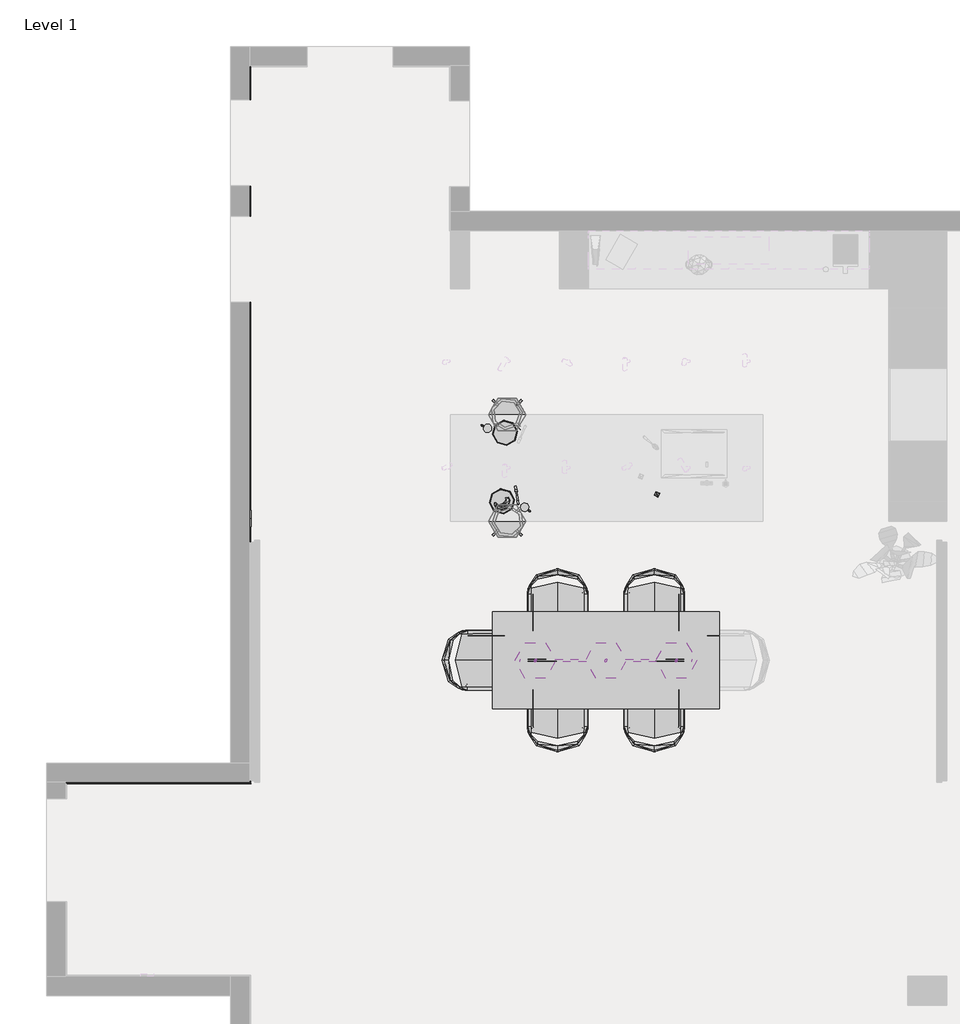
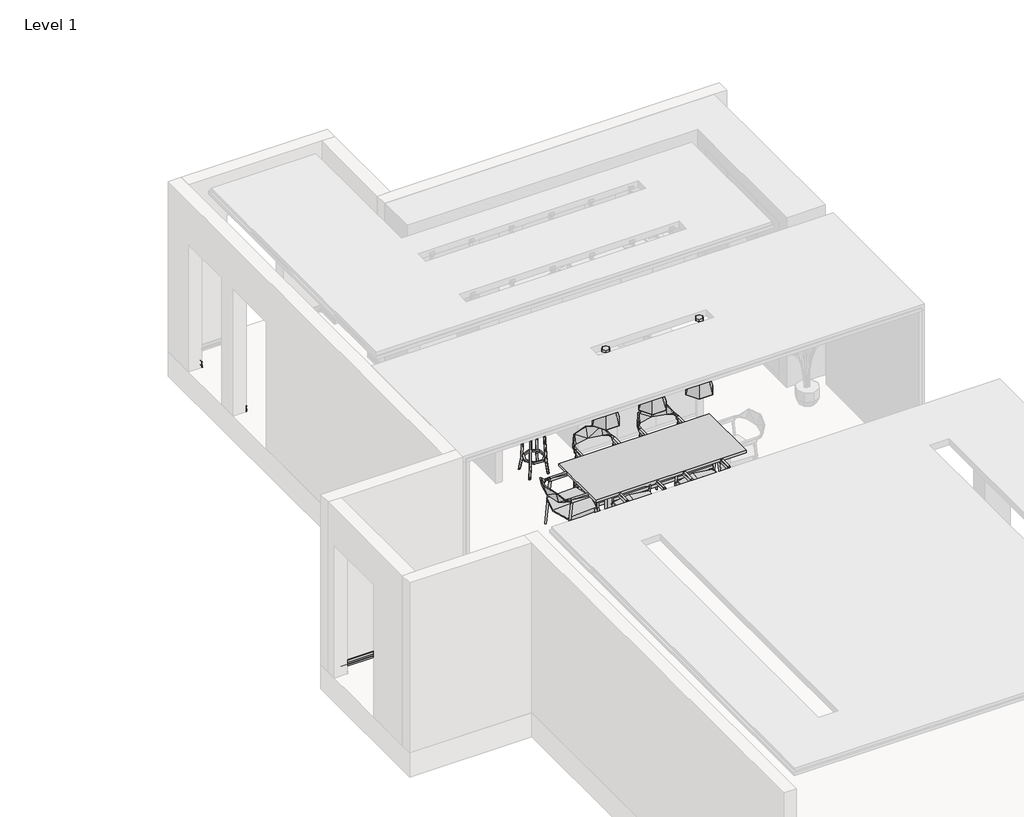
# One storey, part 3 of 4: 19 geographic elements, 2 proxies.
"""IFC4 building model written with IfcOpenShell, lengths in millimetres."""

from ifc_helpers import new_model, si_unit, frame, origin, place, context, project, spatial, polyline, circle_curve, ellipse_curve, transform, mapped, element, save
from ifc_brep_helpers import plane_surface, cylinder_surface, revolved_surface, advanced_brep
from components import geographic_element_5908e057, geographic_element_748f541f, geographic_element_531842fa, enscape_assetdefinition_chair_005_enscape_assetdefinition_31156a69, enscape_assetdefinition_chair_005_enscape_assetdefinition_cb8def9a, enscape_assetdefinition_cup_001_enscape_assetdefinition_cup_e3f5b286, enscape_assetdefinition_high_stool_013_enscape_60fb523d, enscape_assetdefinition_light_switch_001_enscape_6b1c9711, enscape_assetdefinition_pendant_lamp_007_enscape_1d66599b, enscape_assetdefinition_plate_006_enscape_assetdefinition_0bcb7aa0, enscape_assetdefinition_power_socket_001_enscape_5ca5412b, enscape_assetdefinition_table_014_enscape_assetdefinition_37f53f77

model = new_model("IFC4")

# Units and contexts
model_context = context("Model", 3, world=origin())
ifc_project = project(units=[si_unit("LENGTHUNIT", "METRE", prefix="MILLI")], contexts=[model_context])

# Site, building, storey
site = spatial("IfcSite", under=ifc_project)
building = spatial("IfcBuilding", under=site)
storey = spatial("IfcBuildingStorey", under=building, Name="Level 1", Elevation=0.0)

# Proxies
placement = place(None, origin())
element("IfcBuildingElementProxy", 1, Name="Brick Soldier Course 2", ObjectType="Brick Soldier Course 2", at=placement, inside=storey, context=model_context, shape_type="AdvancedBrep", body=[
    advanced_brep(
    [(3277.9525098, 9937.7866664, 100.0), (3277.9525098, 9937.7866664, 0.0), (3291.0803378, 9937.7866664, 0.0), (3285.5847618, 9937.7866664, 16.7363778), (3284.220014, 9937.7866664, 17.9313406), (3282.9525098, 9937.7866664, 17.9313406), (3282.9525098, 9937.7866664, 25.0), (3283.9895572, 9937.7866664, 25.0), (3285.4407832, 9937.7866664, 26.451226), (3285.4407832, 9937.7866664, 48.5), (3283.9407832, 9937.7866664, 50.0), (3280.4407832, 9937.7866664, 50.0), (3280.4407832, 9937.7866664, 90.0), (3281.5159518, 9937.7866664, 90.0), (3282.9525098, 9937.7866664, 91.4365579), (3282.9525098, 9937.7866664, 95.9967275), (3278.9492372, 9937.7866664, 100.0), (3277.9525098, 10287.7866664, 100.0), (3278.9492372, 10286.7899389, 100.0), (3282.9525098, 10282.7866664, 95.9967275), (3282.9525098, 10282.7866664, 91.4365579), (3281.5159518, 10284.2232244, 90.0), (3280.4407832, 10285.298393, 90.0), (3280.4407832, 10285.298393, 50.0), (3283.9407832, 10281.798393, 50.0), (3285.4407832, 10280.298393, 48.5), (3285.4407832, 10280.298393, 26.451226), (3283.9895572, 10281.749619, 25.0), (3282.9525098, 10282.7866664, 25.0), (3282.9525098, 10282.7866664, 17.9313406), (3284.220014, 10281.5191621, 17.9313406), (3285.5847618, 10280.1544144, 16.7363778), (3291.0803378, 10274.6588383, 0.0), (3277.9525098, 10287.7866664, 0.0)],
    [
        (0, 1),
        (1, 2),
        (2, 3, circle_curve(frame((3333.0974268, 9937.7866664, 23.0672348), z_axis=(0.0, 1.0, 0.0), x_axis=(1.0, 0.0, 0.0)), 47.932589)),
        (3, 4, circle_curve(frame((3284.220014, 9937.7866664, 16.554531), z_axis=(0.0, -1.0, 0.0), x_axis=(1.0, 0.0, 0.0)), 1.3768096)),
        (4, 5),
        (5, 6),
        (6, 7),
        (7, 8, circle_curve(frame((3283.9895572, 9937.7866664, 26.451226), z_axis=(0.0, -1.0, 0.0), x_axis=(1.0, 0.0, 0.0)), 1.451226)),
        (8, 9),
        (9, 10, circle_curve(frame((3283.9407832, 9937.7866664, 48.5), z_axis=(0.0, -1.0, 0.0), x_axis=(1.0, 0.0, 0.0)), 1.5)),
        (10, 11),
        (11, 12),
        (12, 13),
        (13, 14, circle_curve(frame((3281.5159518, 9937.7866664, 91.4365579), z_axis=(0.0, -1.0, 0.0), x_axis=(1.0, 0.0, 0.0)), 1.4365579)),
        (14, 15),
        (15, 16, circle_curve(frame((3278.9492372, 9937.7866664, 95.9967275), z_axis=(0.0, -1.0, 0.0), x_axis=(1.0, 0.0, 0.0)), 4.0032725)),
        (16, 0),
        (17, 18),
        (18, 19, ellipse_curve(frame((3278.9492372, 10286.7899389, 95.9967275), z_axis=(0.7071067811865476, 0.7071067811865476, 0.0), x_axis=(0.7071067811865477, -0.7071067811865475, 0.0)), 5.6614823, 4.0032725)),
        (19, 20),
        (20, 21, ellipse_curve(frame((3281.5159518, 10284.2232244, 91.4365579), z_axis=(0.7071067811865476, 0.7071067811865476, 0.0), x_axis=(0.7071067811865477, -0.7071067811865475, 0.0)), 2.0315997, 1.4365579)),
        (21, 22),
        (22, 23),
        (23, 24),
        (24, 25, ellipse_curve(frame((3283.9407832, 10281.798393, 48.5), z_axis=(0.7071067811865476, 0.7071067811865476, 0.0), x_axis=(0.7071067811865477, -0.7071067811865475, 0.0)), 2.1213203, 1.5)),
        (25, 26),
        (26, 27, ellipse_curve(frame((3283.9895572, 10281.749619, 26.451226), z_axis=(0.7071067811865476, 0.7071067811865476, 0.0), x_axis=(0.7071067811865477, -0.7071067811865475, 0.0)), 2.0523435, 1.451226)),
        (27, 28),
        (28, 29),
        (29, 30),
        (30, 31, ellipse_curve(frame((3284.220014, 10281.5191621, 16.554531), z_axis=(0.7071067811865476, 0.7071067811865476, 0.0), x_axis=(0.7071067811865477, -0.7071067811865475, 0.0)), 1.9471028, 1.3768096)),
        (31, 32, ellipse_curve(frame((3333.0974268, 10232.6417494, 23.0672348), z_axis=(-0.7071067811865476, -0.7071067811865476, 0.0), x_axis=(-0.7071067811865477, 0.7071067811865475, 0.0)), 67.7869174, 47.932589)),
        (32, 33),
        (33, 17),
        (0, 17),
        (33, 1),
        (32, 2),
        (31, 3),
        (30, 4),
        (29, 5),
        (28, 6),
        (27, 7),
        (26, 8),
        (25, 9),
        (24, 10),
        (23, 11),
        (22, 12),
        (21, 13),
        (20, 14),
        (19, 15),
        (18, 16),
    ],
    [
        plane_surface(frame((3177.9475425, 9937.7866664, 0.0), z_axis=(0.0, -1.0, 0.0), x_axis=(0.0, 0.0, 1.0))),
        plane_surface(frame((3277.9525098, 10287.7866664, 304.8), z_axis=(0.7071067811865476, 0.7071067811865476, 0.0), x_axis=(0.7071067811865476, -0.7071067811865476, 0.0))),
        plane_surface(frame((3277.9525098, 9937.7866664, 100.0), z_axis=(-1.0, 0.0, 0.0), x_axis=(0.0, 1.0, 0.0))),
        plane_surface(frame((3277.9525098, 9937.7866664, 0.0), z_axis=(0.0, 0.0, -1.0), x_axis=(0.0, 1.0, 0.0))),
        revolved_surface(polyline([(3381.0300158, 10280.574338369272, 23.0672348), (3381.0300158, 9937.7866664, 23.0672348)]), (3333.0974268, 9937.7866664, 23.0672348), (0.0, 1.0, 0.0)),
        cylinder_surface(frame((3284.220014, 9937.7866664, 16.554531), z_axis=(0.0, -1.0, 0.0), x_axis=(1.0, 0.0, 0.0)), 1.3768096),
        plane_surface(frame((3284.220014, 9937.7866664, 17.9313406), z_axis=(0.0, 0.0, 1.0), x_axis=(0.0, 1.0, 0.0))),
        plane_surface(frame((3282.9525098, 9937.7866664, 17.9313406), z_axis=(1.0, 0.0, 0.0), x_axis=(0.0, 1.0, 0.0))),
        plane_surface(frame((3282.9525098, 9937.7866664, 25.0), z_axis=(0.0, 0.0, -1.0), x_axis=(0.0, 1.0, 0.0))),
        cylinder_surface(frame((3283.9895572, 9937.7866664, 26.451226), z_axis=(0.0, -1.0, 0.0), x_axis=(1.0, 0.0, 0.0)), 1.451226),
        plane_surface(frame((3285.4407832, 9937.7866664, 26.451226), z_axis=(1.0, 0.0, 0.0), x_axis=(0.0, 1.0, 0.0))),
        cylinder_surface(frame((3283.9407832, 9937.7866664, 48.5), z_axis=(0.0, -1.0, 0.0), x_axis=(1.0, 0.0, 0.0)), 1.5),
        plane_surface(frame((3283.9407832, 9937.7866664, 50.0), z_axis=(0.0, 0.0, 1.0), x_axis=(0.0, 1.0, 0.0))),
        plane_surface(frame((3280.4407832, 9937.7866664, 50.0), z_axis=(1.0, 0.0, 0.0), x_axis=(0.0, 1.0, 0.0))),
        plane_surface(frame((3280.4407832, 9937.7866664, 90.0), z_axis=(0.0, 0.0, -1.0), x_axis=(0.0, 1.0, 0.0))),
        cylinder_surface(frame((3281.5159518, 9937.7866664, 91.4365579), z_axis=(0.0, -1.0, 0.0), x_axis=(1.0, 0.0, 0.0)), 1.4365579),
        plane_surface(frame((3282.9525098, 9937.7866664, 91.4365579), z_axis=(1.0, 0.0, 0.0), x_axis=(0.0, 1.0, 0.0))),
        cylinder_surface(frame((3278.9492372, 9937.7866664, 95.9967275), z_axis=(0.0, -1.0, 0.0), x_axis=(1.0, 0.0, 0.0)), 4.0032725),
        plane_surface(frame((3278.9492372, 9937.7866664, 100.0), z_axis=(0.0, 0.0, 1.0), x_axis=(0.0, 1.0, 0.0))),
    ],
    [
        (0, [[1, 2, 3, 4, 5, 6, 7, 8, 9, 10, 11, 12, 13, 14, 15, 16, 17]]),
        (1, [[18, 19, 20, 21, 22, 23, 24, 25, 26, 27, 28, 29, 30, 31, 32, 33, 34]]),
        (2, [[-1, 35, -34, 36]]),
        (3, [[-2, -36, -33, 37]]),
        (4, [[-3, -37, -32, 38]]),
        (5, [[-4, -38, -31, 39]]),
        (6, [[-5, -39, -30, 40]]),
        (7, [[-6, -40, -29, 41]]),
        (8, [[-7, -41, -28, 42]]),
        (9, [[-8, -42, -27, 43]]),
        (10, [[-9, -43, -26, 44]]),
        (11, [[-10, -44, -25, 45]]),
        (12, [[-11, -45, -24, 46]]),
        (13, [[-12, -46, -23, 47]]),
        (14, [[-13, -47, -22, 48]]),
        (15, [[-14, -48, -21, 49]]),
        (16, [[-15, -49, -20, 50]]),
        (17, [[-16, -50, -19, 51]]),
        (18, [[-17, -51, -18, -35]]),
    ],
),
    advanced_brep(
    [(3277.9525098, 8737.7866664, 100.0), (3277.9525098, 8737.7866664, 0.0), (3291.0803378, 8737.7866664, 0.0), (3285.5847618, 8737.7866664, 16.7363778), (3284.220014, 8737.7866664, 17.9313406), (3282.9525098, 8737.7866664, 17.9313406), (3282.9525098, 8737.7866664, 25.0), (3283.9895572, 8737.7866664, 25.0), (3285.4407832, 8737.7866664, 26.451226), (3285.4407832, 8737.7866664, 48.5), (3283.9407832, 8737.7866664, 50.0), (3280.4407832, 8737.7866664, 50.0), (3280.4407832, 8737.7866664, 90.0), (3281.5159518, 8737.7866664, 90.0), (3282.9525098, 8737.7866664, 91.4365579), (3282.9525098, 8737.7866664, 95.9967275), (3278.9492372, 8737.7866664, 100.0), (3277.9525098, 9047.7866664, 100.0), (3278.9492372, 9047.7866664, 100.0), (3282.9525098, 9047.7866664, 95.9967275), (3282.9525098, 9047.7866664, 91.4365579), (3281.5159518, 9047.7866664, 90.0), (3280.4407832, 9047.7866664, 90.0), (3280.4407832, 9047.7866664, 50.0), (3283.9407832, 9047.7866664, 50.0), (3285.4407832, 9047.7866664, 48.5), (3285.4407832, 9047.7866664, 26.451226), (3283.9895572, 9047.7866664, 25.0), (3282.9525098, 9047.7866664, 25.0), (3282.9525098, 9047.7866664, 17.9313406), (3284.220014, 9047.7866664, 17.9313406), (3285.5847618, 9047.7866664, 16.7363778), (3291.0803378, 9047.7866664, 0.0), (3277.9525098, 9047.7866664, 0.0)],
    [
        (0, 1),
        (1, 2),
        (2, 3, circle_curve(frame((3333.0974268, 8737.7866664, 23.0672348), z_axis=(0.0, 1.0, 0.0), x_axis=(1.0, 0.0, 0.0)), 47.932589)),
        (3, 4, circle_curve(frame((3284.220014, 8737.7866664, 16.554531), z_axis=(0.0, -1.0, 0.0), x_axis=(1.0, 0.0, 0.0)), 1.3768096)),
        (4, 5),
        (5, 6),
        (6, 7),
        (7, 8, circle_curve(frame((3283.9895572, 8737.7866664, 26.451226), z_axis=(0.0, -1.0, 0.0), x_axis=(1.0, 0.0, 0.0)), 1.451226)),
        (8, 9),
        (9, 10, circle_curve(frame((3283.9407832, 8737.7866664, 48.5), z_axis=(0.0, -1.0, 0.0), x_axis=(1.0, 0.0, 0.0)), 1.5)),
        (10, 11),
        (11, 12),
        (12, 13),
        (13, 14, circle_curve(frame((3281.5159518, 8737.7866664, 91.4365579), z_axis=(0.0, -1.0, 0.0), x_axis=(1.0, 0.0, 0.0)), 1.4365579)),
        (14, 15),
        (15, 16, circle_curve(frame((3278.9492372, 8737.7866664, 95.9967275), z_axis=(0.0, -1.0, 0.0), x_axis=(1.0, 0.0, 0.0)), 4.0032725)),
        (16, 0),
        (17, 18),
        (18, 19, circle_curve(frame((3278.9492372, 9047.7866664, 95.9967275), z_axis=(0.0, 1.0, 0.0), x_axis=(1.0, 0.0, 0.0)), 4.0032725)),
        (19, 20),
        (20, 21, circle_curve(frame((3281.5159518, 9047.7866664, 91.4365579), z_axis=(0.0, 1.0, 0.0), x_axis=(1.0, 0.0, 0.0)), 1.4365579)),
        (21, 22),
        (22, 23),
        (23, 24),
        (24, 25, circle_curve(frame((3283.9407832, 9047.7866664, 48.5), z_axis=(0.0, 1.0, 0.0), x_axis=(1.0, 0.0, 0.0)), 1.5)),
        (25, 26),
        (26, 27, circle_curve(frame((3283.9895572, 9047.7866664, 26.451226), z_axis=(0.0, 1.0, 0.0), x_axis=(1.0, 0.0, 0.0)), 1.451226)),
        (27, 28),
        (28, 29),
        (29, 30),
        (30, 31, circle_curve(frame((3284.220014, 9047.7866664, 16.554531), z_axis=(0.0, 1.0, 0.0), x_axis=(1.0, 0.0, 0.0)), 1.3768096)),
        (31, 32, circle_curve(frame((3333.0974268, 9047.7866664, 23.0672348), z_axis=(0.0, -1.0, 0.0), x_axis=(1.0, 0.0, 0.0)), 47.932589)),
        (32, 33),
        (33, 17),
        (0, 17),
        (33, 1),
        (32, 2),
        (31, 3),
        (30, 4),
        (29, 5),
        (28, 6),
        (27, 7),
        (26, 8),
        (25, 9),
        (24, 10),
        (23, 11),
        (22, 12),
        (21, 13),
        (20, 14),
        (19, 15),
        (18, 16),
    ],
    [
        plane_surface(frame((3177.9475425, 8737.7866664, 0.0), z_axis=(0.0, -1.0, 0.0), x_axis=(0.0, 0.0, 1.0))),
        plane_surface(frame((3177.9475425, 9047.7866664, 0.0), z_axis=(0.0, 1.0, 0.0), x_axis=(0.0, 0.0, 1.0))),
        plane_surface(frame((3277.9525098, 8737.7866664, 100.0), z_axis=(-1.0, 0.0, 0.0), x_axis=(0.0, 1.0, 0.0))),
        plane_surface(frame((3277.9525098, 8737.7866664, 0.0), z_axis=(0.0, 0.0, -1.0), x_axis=(0.0, 1.0, 0.0))),
        revolved_surface(polyline([(3381.0300158, 9047.7866664, 23.0672348), (3381.0300158, 8737.7866664, 23.0672348)]), (3333.0974268, 8737.7866664, 23.0672348), (0.0, 1.0, 0.0)),
        cylinder_surface(frame((3284.220014, 8737.7866664, 16.554531), z_axis=(0.0, -1.0, 0.0), x_axis=(1.0, 0.0, 0.0)), 1.3768096),
        plane_surface(frame((3284.220014, 8737.7866664, 17.9313406), z_axis=(0.0, 0.0, 1.0), x_axis=(0.0, 1.0, 0.0))),
        plane_surface(frame((3282.9525098, 8737.7866664, 17.9313406), z_axis=(1.0, 0.0, 0.0), x_axis=(0.0, 1.0, 0.0))),
        plane_surface(frame((3282.9525098, 8737.7866664, 25.0), z_axis=(0.0, 0.0, -1.0), x_axis=(0.0, 1.0, 0.0))),
        cylinder_surface(frame((3283.9895572, 8737.7866664, 26.451226), z_axis=(0.0, -1.0, 0.0), x_axis=(1.0, 0.0, 0.0)), 1.451226),
        plane_surface(frame((3285.4407832, 8737.7866664, 26.451226), z_axis=(1.0, 0.0, 0.0), x_axis=(0.0, 1.0, 0.0))),
        cylinder_surface(frame((3283.9407832, 8737.7866664, 48.5), z_axis=(0.0, -1.0, 0.0), x_axis=(1.0, 0.0, 0.0)), 1.5),
        plane_surface(frame((3283.9407832, 8737.7866664, 50.0), z_axis=(0.0, 0.0, 1.0), x_axis=(0.0, 1.0, 0.0))),
        plane_surface(frame((3280.4407832, 8737.7866664, 50.0), z_axis=(1.0, 0.0, 0.0), x_axis=(0.0, 1.0, 0.0))),
        plane_surface(frame((3280.4407832, 8737.7866664, 90.0), z_axis=(0.0, 0.0, -1.0), x_axis=(0.0, 1.0, 0.0))),
        cylinder_surface(frame((3281.5159518, 8737.7866664, 91.4365579), z_axis=(0.0, -1.0, 0.0), x_axis=(1.0, 0.0, 0.0)), 1.4365579),
        plane_surface(frame((3282.9525098, 8737.7866664, 91.4365579), z_axis=(1.0, 0.0, 0.0), x_axis=(0.0, 1.0, 0.0))),
        cylinder_surface(frame((3278.9492372, 8737.7866664, 95.9967275), z_axis=(0.0, -1.0, 0.0), x_axis=(1.0, 0.0, 0.0)), 4.0032725),
        plane_surface(frame((3278.9492372, 8737.7866664, 100.0), z_axis=(0.0, 0.0, 1.0), x_axis=(0.0, 1.0, 0.0))),
    ],
    [
        (0, [[1, 2, 3, 4, 5, 6, 7, 8, 9, 10, 11, 12, 13, 14, 15, 16, 17]]),
        (1, [[18, 19, 20, 21, 22, 23, 24, 25, 26, 27, 28, 29, 30, 31, 32, 33, 34]]),
        (2, [[-1, 35, -34, 36]]),
        (3, [[-2, -36, -33, 37]]),
        (4, [[-3, -37, -32, 38]]),
        (5, [[-4, -38, -31, 39]]),
        (6, [[-5, -39, -30, 40]]),
        (7, [[-6, -40, -29, 41]]),
        (8, [[-7, -41, -28, 42]]),
        (9, [[-8, -42, -27, 43]]),
        (10, [[-9, -43, -26, 44]]),
        (11, [[-10, -44, -25, 45]]),
        (12, [[-11, -45, -24, 46]]),
        (13, [[-12, -46, -23, 47]]),
        (14, [[-13, -47, -22, 48]]),
        (15, [[-14, -48, -21, 49]]),
        (16, [[-15, -49, -20, 50]]),
        (17, [[-16, -50, -19, 51]]),
        (18, [[-17, -51, -18, -35]]),
    ],
),
    advanced_brep(
    [(3277.9525098, 2887.7866664, 100.0), (3277.9525098, 2887.7866664, 0.0), (3291.0803378, 2874.6588383, 0.0), (3285.5847618, 2880.1544144, 16.7363778), (3284.220014, 2881.5191621, 17.9313406), (3282.9525098, 2882.7866664, 17.9313406), (3282.9525098, 2882.7866664, 25.0), (3283.9895572, 2881.749619, 25.0), (3285.4407832, 2880.298393, 26.451226), (3285.4407832, 2880.298393, 48.5), (3283.9407832, 2881.798393, 50.0), (3280.4407832, 2885.298393, 50.0), (3280.4407832, 2885.298393, 90.0), (3281.5159518, 2884.2232244, 90.0), (3282.9525098, 2882.7866664, 91.4365579), (3282.9525098, 2882.7866664, 95.9967275), (3278.9492372, 2886.7899389, 100.0), (3277.9525098, 7847.7866664, 100.0), (3278.9492372, 7847.7866664, 100.0), (3282.9525098, 7847.7866664, 95.9967275), (3282.9525098, 7847.7866664, 91.4365579), (3281.5159518, 7847.7866664, 90.0), (3280.4407832, 7847.7866664, 90.0), (3280.4407832, 7847.7866664, 50.0), (3283.9407832, 7847.7866664, 50.0), (3285.4407832, 7847.7866664, 48.5), (3285.4407832, 7847.7866664, 26.451226), (3283.9895572, 7847.7866664, 25.0), (3282.9525098, 7847.7866664, 25.0), (3282.9525098, 7847.7866664, 17.9313406), (3284.220014, 7847.7866664, 17.9313406), (3285.5847618, 7847.7866664, 16.7363778), (3291.0803378, 7847.7866664, 0.0), (3277.9525098, 7847.7866664, 0.0)],
    [
        (0, 1),
        (1, 2),
        (2, 3, ellipse_curve(frame((3333.0974268, 2832.6417494, 23.0672348), z_axis=(0.7071067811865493, 0.7071067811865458, 0.0), x_axis=(-0.7071067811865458, 0.7071067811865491, 0.0)), 67.7869174, 47.932589)),
        (3, 4, ellipse_curve(frame((3284.220014, 2881.5191621, 16.554531), z_axis=(-0.7071067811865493, -0.7071067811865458, 0.0), x_axis=(0.7071067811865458, -0.7071067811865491, 0.0)), 1.9471028, 1.3768096)),
        (4, 5),
        (5, 6),
        (6, 7),
        (7, 8, ellipse_curve(frame((3283.9895572, 2881.749619, 26.451226), z_axis=(-0.7071067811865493, -0.7071067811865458, 0.0), x_axis=(0.7071067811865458, -0.7071067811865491, 0.0)), 2.0523435, 1.451226)),
        (8, 9),
        (9, 10, ellipse_curve(frame((3283.9407832, 2881.798393, 48.5), z_axis=(-0.7071067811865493, -0.7071067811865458, 0.0), x_axis=(0.7071067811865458, -0.7071067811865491, 0.0)), 2.1213203, 1.5)),
        (10, 11),
        (11, 12),
        (12, 13),
        (13, 14, ellipse_curve(frame((3281.5159518, 2884.2232244, 91.4365579), z_axis=(-0.7071067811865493, -0.7071067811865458, 0.0), x_axis=(0.7071067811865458, -0.7071067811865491, 0.0)), 2.0315997, 1.4365579)),
        (14, 15),
        (15, 16, ellipse_curve(frame((3278.9492372, 2886.7899389, 95.9967275), z_axis=(-0.7071067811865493, -0.7071067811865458, 0.0), x_axis=(0.7071067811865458, -0.7071067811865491, 0.0)), 5.6614823, 4.0032725)),
        (16, 0),
        (17, 18),
        (18, 19, circle_curve(frame((3278.9492372, 7847.7866664, 95.9967275), z_axis=(0.0, 1.0, 0.0), x_axis=(1.0, 0.0, 0.0)), 4.0032725)),
        (19, 20),
        (20, 21, circle_curve(frame((3281.5159518, 7847.7866664, 91.4365579), z_axis=(0.0, 1.0, 0.0), x_axis=(1.0, 0.0, 0.0)), 1.4365579)),
        (21, 22),
        (22, 23),
        (23, 24),
        (24, 25, circle_curve(frame((3283.9407832, 7847.7866664, 48.5), z_axis=(0.0, 1.0, 0.0), x_axis=(1.0, 0.0, 0.0)), 1.5)),
        (25, 26),
        (26, 27, circle_curve(frame((3283.9895572, 7847.7866664, 26.451226), z_axis=(0.0, 1.0, 0.0), x_axis=(1.0, 0.0, 0.0)), 1.451226)),
        (27, 28),
        (28, 29),
        (29, 30),
        (30, 31, circle_curve(frame((3284.220014, 7847.7866664, 16.554531), z_axis=(0.0, 1.0, 0.0), x_axis=(1.0, 0.0, 0.0)), 1.3768096)),
        (31, 32, circle_curve(frame((3333.0974268, 7847.7866664, 23.0672348), z_axis=(0.0, -1.0, 0.0), x_axis=(1.0, 0.0, 0.0)), 47.932589)),
        (32, 33),
        (33, 17),
        (0, 17),
        (33, 1),
        (32, 2),
        (31, 3),
        (30, 4),
        (29, 5),
        (28, 6),
        (27, 7),
        (26, 8),
        (25, 9),
        (24, 10),
        (23, 11),
        (22, 12),
        (21, 13),
        (20, 14),
        (19, 15),
        (18, 16),
    ],
    [
        plane_surface(frame((3277.9525098, 2887.7866664, -304.8), z_axis=(-0.7071067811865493, -0.7071067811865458, 0.0), x_axis=(-0.7071067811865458, 0.7071067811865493, 0.0))),
        plane_surface(frame((3177.9475425, 7847.7866664, 0.0), z_axis=(0.0, 1.0, 0.0), x_axis=(0.0, 0.0, 1.0))),
        plane_surface(frame((3277.9525098, 2887.7866664, 100.0), z_axis=(-1.0, 0.0, 0.0), x_axis=(0.0, 1.0, 0.0))),
        plane_surface(frame((3277.9525098, 2887.7866664, 0.0), z_axis=(0.0, 0.0, -1.0), x_axis=(0.0, 1.0, 0.0))),
        revolved_surface(polyline([(3381.0300158, 7847.786666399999, 23.0672348), (3381.0300158, 2784.709160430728, 23.0672348)]), (3333.0974268, 2887.7866664, 23.0672348), (0.0, 1.0, 0.0)),
        cylinder_surface(frame((3284.220014, 2887.7866664, 16.554531), z_axis=(0.0, -1.0, 0.0), x_axis=(1.0, 0.0, 0.0)), 1.3768096),
        plane_surface(frame((3284.220014, 2881.5191621, 17.9313406), z_axis=(0.0, 0.0, 1.0), x_axis=(0.0, 1.0, 0.0))),
        plane_surface(frame((3282.9525098, 2882.7866664, 17.9313406), z_axis=(1.0, 0.0, 0.0), x_axis=(0.0, 1.0, 0.0))),
        plane_surface(frame((3282.9525098, 2882.7866664, 25.0), z_axis=(0.0, 0.0, -1.0), x_axis=(0.0, 1.0, 0.0))),
        cylinder_surface(frame((3283.9895572, 2887.7866664, 26.451226), z_axis=(0.0, -1.0, 0.0), x_axis=(1.0, 0.0, 0.0)), 1.451226),
        plane_surface(frame((3285.4407832, 2880.298393, 26.451226), z_axis=(1.0, 0.0, 0.0), x_axis=(0.0, 1.0, 0.0))),
        cylinder_surface(frame((3283.9407832, 2887.7866664, 48.5), z_axis=(0.0, -1.0, 0.0), x_axis=(1.0, 0.0, 0.0)), 1.5),
        plane_surface(frame((3283.9407832, 2881.798393, 50.0), z_axis=(0.0, 0.0, 1.0), x_axis=(0.0, 1.0, 0.0))),
        plane_surface(frame((3280.4407832, 2885.298393, 50.0), z_axis=(1.0, 0.0, 0.0), x_axis=(0.0, 1.0, 0.0))),
        plane_surface(frame((3280.4407832, 2885.298393, 90.0), z_axis=(0.0, 0.0, -1.0), x_axis=(0.0, 1.0, 0.0))),
        cylinder_surface(frame((3281.5159518, 2887.7866664, 91.4365579), z_axis=(0.0, -1.0, 0.0), x_axis=(1.0, 0.0, 0.0)), 1.4365579),
        plane_surface(frame((3282.9525098, 2882.7866664, 91.4365579), z_axis=(1.0, 0.0, 0.0), x_axis=(0.0, 1.0, 0.0))),
        cylinder_surface(frame((3278.9492372, 2887.7866664, 95.9967275), z_axis=(0.0, -1.0, 0.0), x_axis=(1.0, 0.0, 0.0)), 4.0032725),
        plane_surface(frame((3278.9492372, 2886.7899389, 100.0), z_axis=(0.0, 0.0, 1.0), x_axis=(0.0, 1.0, 0.0))),
    ],
    [
        (0, [[1, 2, 3, 4, 5, 6, 7, 8, 9, 10, 11, 12, 13, 14, 15, 16, 17]]),
        (1, [[18, 19, 20, 21, 22, 23, 24, 25, 26, 27, 28, 29, 30, 31, 32, 33, 34]]),
        (2, [[-1, 35, -34, 36]]),
        (3, [[-2, -36, -33, 37]]),
        (4, [[-3, -37, -32, 38]]),
        (5, [[-4, -38, -31, 39]]),
        (6, [[-5, -39, -30, 40]]),
        (7, [[-6, -40, -29, 41]]),
        (8, [[-7, -41, -28, 42]]),
        (9, [[-8, -42, -27, 43]]),
        (10, [[-9, -43, -26, 44]]),
        (11, [[-10, -44, -25, 45]]),
        (12, [[-11, -45, -24, 46]]),
        (13, [[-12, -46, -23, 47]]),
        (14, [[-13, -47, -22, 48]]),
        (15, [[-14, -48, -21, 49]]),
        (16, [[-15, -49, -20, 50]]),
        (17, [[-16, -50, -19, 51]]),
        (18, [[-17, -51, -18, -35]]),
    ],
),
])
element("IfcBuildingElementProxy", 2, Name="Brick Soldier Course 2", ObjectType="Brick Soldier Course 2", at=placement, inside=storey, context=model_context, shape_type="AdvancedBrep", body=[
    advanced_brep(
    [(1377.9525098, 2887.7866664, 100.0), (1377.9525098, 2887.7866664, 0.0), (1377.9525098, 2874.6588383, 0.0), (1377.9525098, 2880.1544144, 16.7363778), (1377.9525098, 2881.5191621, 17.9313406), (1377.9525098, 2882.7866664, 17.9313406), (1377.9525098, 2882.7866664, 25.0), (1377.9525098, 2881.749619, 25.0), (1377.9525098, 2880.298393, 26.451226), (1377.9525098, 2880.298393, 48.5), (1377.9525098, 2881.798393, 50.0), (1377.9525098, 2885.298393, 50.0), (1377.9525098, 2885.298393, 90.0), (1377.9525098, 2884.2232244, 90.0), (1377.9525098, 2882.7866664, 91.4365579), (1377.9525098, 2882.7866664, 95.9967275), (1377.9525098, 2886.7899389, 100.0), (3277.9525098, 2887.7866664, 100.0), (3278.9492372, 2886.7899389, 100.0), (3282.9525098, 2882.7866664, 95.9967275), (3282.9525098, 2882.7866664, 91.4365579), (3281.5159518, 2884.2232244, 90.0), (3280.4407832, 2885.298393, 90.0), (3280.4407832, 2885.298393, 50.0), (3283.9407832, 2881.798393, 50.0), (3285.4407832, 2880.298393, 48.5), (3285.4407832, 2880.298393, 26.451226), (3283.9895572, 2881.749619, 25.0), (3282.9525098, 2882.7866664, 25.0), (3282.9525098, 2882.7866664, 17.9313406), (3284.220014, 2881.5191621, 17.9313406), (3285.5847618, 2880.1544144, 16.7363778), (3291.0803378, 2874.6588383, 0.0), (3277.9525098, 2887.7866664, 0.0)],
    [
        (0, 1),
        (1, 2),
        (2, 3, circle_curve(frame((1377.9525098, 2832.6417494, 23.0672348), z_axis=(1.0, 0.0, 0.0), x_axis=(0.0, -1.0, 0.0)), 47.932589)),
        (3, 4, circle_curve(frame((1377.9525098, 2881.5191621, 16.554531), z_axis=(-1.0, 0.0, 0.0), x_axis=(0.0, -1.0, 0.0)), 1.3768096)),
        (4, 5),
        (5, 6),
        (6, 7),
        (7, 8, circle_curve(frame((1377.9525098, 2881.749619, 26.451226), z_axis=(-1.0, 0.0, 0.0), x_axis=(0.0, -1.0, 0.0)), 1.451226)),
        (8, 9),
        (9, 10, circle_curve(frame((1377.9525098, 2881.798393, 48.5), z_axis=(-1.0, 0.0, 0.0), x_axis=(0.0, -1.0, 0.0)), 1.5)),
        (10, 11),
        (11, 12),
        (12, 13),
        (13, 14, circle_curve(frame((1377.9525098, 2884.2232244, 91.4365579), z_axis=(-1.0, 0.0, 0.0), x_axis=(0.0, -1.0, 0.0)), 1.4365579)),
        (14, 15),
        (15, 16, circle_curve(frame((1377.9525098, 2886.7899389, 95.9967275), z_axis=(-1.0, 0.0, 0.0), x_axis=(0.0, -1.0, 0.0)), 4.0032725)),
        (16, 0),
        (17, 18),
        (18, 19, ellipse_curve(frame((3278.9492372, 2886.7899389, 95.9967275), z_axis=(0.7071067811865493, 0.7071067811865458, 0.0), x_axis=(-0.7071067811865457, 0.7071067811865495, 0.0)), 5.6614823, 4.0032725)),
        (19, 20),
        (20, 21, ellipse_curve(frame((3281.5159518, 2884.2232244, 91.4365579), z_axis=(0.7071067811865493, 0.7071067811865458, 0.0), x_axis=(-0.7071067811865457, 0.7071067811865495, 0.0)), 2.0315997, 1.4365579)),
        (21, 22),
        (22, 23),
        (23, 24),
        (24, 25, ellipse_curve(frame((3283.9407832, 2881.798393, 48.5), z_axis=(0.7071067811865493, 0.7071067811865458, 0.0), x_axis=(-0.7071067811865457, 0.7071067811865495, 0.0)), 2.1213203, 1.5)),
        (25, 26),
        (26, 27, ellipse_curve(frame((3283.9895572, 2881.749619, 26.451226), z_axis=(0.7071067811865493, 0.7071067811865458, 0.0), x_axis=(-0.7071067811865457, 0.7071067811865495, 0.0)), 2.0523435, 1.451226)),
        (27, 28),
        (28, 29),
        (29, 30),
        (30, 31, ellipse_curve(frame((3284.220014, 2881.5191621, 16.554531), z_axis=(0.7071067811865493, 0.7071067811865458, 0.0), x_axis=(-0.7071067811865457, 0.7071067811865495, 0.0)), 1.9471028, 1.3768096)),
        (31, 32, ellipse_curve(frame((3333.0974268, 2832.6417494, 23.0672348), z_axis=(-0.7071067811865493, -0.7071067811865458, 0.0), x_axis=(0.7071067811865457, -0.7071067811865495, 0.0)), 67.7869174, 47.932589)),
        (32, 33),
        (33, 17),
        (0, 17),
        (33, 1),
        (32, 2),
        (31, 3),
        (30, 4),
        (29, 5),
        (28, 6),
        (27, 7),
        (26, 8),
        (25, 9),
        (24, 10),
        (23, 11),
        (22, 12),
        (21, 13),
        (20, 14),
        (19, 15),
        (18, 16),
    ],
    [
        plane_surface(frame((1377.9525098, 2887.7866664, -100.0049672), z_axis=(-1.0, 0.0, 0.0), x_axis=(0.0, 1.0, 0.0))),
        plane_surface(frame((3277.9525098, 2887.7866664, -304.8), z_axis=(0.7071067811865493, 0.7071067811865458, 0.0), x_axis=(-0.7071067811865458, 0.7071067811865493, 0.0))),
        plane_surface(frame((1377.9525098, 2887.7866664, 100.0), z_axis=(0.0, 1.0, 0.0), x_axis=(1.0, 0.0, 0.0))),
        plane_surface(frame((1377.9525098, 2887.7866664, 0.0), z_axis=(0.0, 0.0, -1.0), x_axis=(1.0, 0.0, 0.0))),
        revolved_surface(polyline([(3381.0300157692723, 2784.7091604, 23.0672348), (1377.9525098, 2784.7091604, 23.0672348)]), (1377.9525098, 2832.6417494, 23.0672348), (1.0, 0.0, 0.0)),
        cylinder_surface(frame((1377.9525098, 2881.5191621, 16.554531), z_axis=(-1.0, 0.0, 0.0), x_axis=(0.0, -1.0, 0.0)), 1.3768096),
        plane_surface(frame((1377.9525098, 2881.5191621, 17.9313406), z_axis=(0.0, 0.0, 1.0), x_axis=(1.0, 0.0, 0.0))),
        plane_surface(frame((1377.9525098, 2882.7866664, 17.9313406), z_axis=(0.0, -1.0, 0.0), x_axis=(1.0, 0.0, 0.0))),
        plane_surface(frame((1377.9525098, 2882.7866664, 25.0), z_axis=(0.0, 0.0, -1.0), x_axis=(1.0, 0.0, 0.0))),
        cylinder_surface(frame((1377.9525098, 2881.749619, 26.451226), z_axis=(-1.0, 0.0, 0.0), x_axis=(0.0, -1.0, 0.0)), 1.451226),
        plane_surface(frame((1377.9525098, 2880.298393, 26.451226), z_axis=(0.0, -1.0, 0.0), x_axis=(1.0, 0.0, 0.0))),
        cylinder_surface(frame((1377.9525098, 2881.798393, 48.5), z_axis=(-1.0, 0.0, 0.0), x_axis=(0.0, -1.0, 0.0)), 1.5),
        plane_surface(frame((1377.9525098, 2881.798393, 50.0), z_axis=(0.0, 0.0, 1.0), x_axis=(1.0, 0.0, 0.0))),
        plane_surface(frame((1377.9525098, 2885.298393, 50.0), z_axis=(0.0, -1.0, 0.0), x_axis=(1.0, 0.0, 0.0))),
        plane_surface(frame((1377.9525098, 2885.298393, 90.0), z_axis=(0.0, 0.0, -1.0), x_axis=(1.0, 0.0, 0.0))),
        cylinder_surface(frame((1377.9525098, 2884.2232244, 91.4365579), z_axis=(-1.0, 0.0, 0.0), x_axis=(0.0, -1.0, 0.0)), 1.4365579),
        plane_surface(frame((1377.9525098, 2882.7866664, 91.4365579), z_axis=(0.0, -1.0, 0.0), x_axis=(1.0, 0.0, 0.0))),
        cylinder_surface(frame((1377.9525098, 2886.7899389, 95.9967275), z_axis=(-1.0, 0.0, 0.0), x_axis=(0.0, -1.0, 0.0)), 4.0032725),
        plane_surface(frame((1377.9525098, 2886.7899389, 100.0), z_axis=(0.0, 0.0, 1.0), x_axis=(1.0, 0.0, 0.0))),
    ],
    [
        (0, [[1, 2, 3, 4, 5, 6, 7, 8, 9, 10, 11, 12, 13, 14, 15, 16, 17]]),
        (1, [[18, 19, 20, 21, 22, 23, 24, 25, 26, 27, 28, 29, 30, 31, 32, 33, 34]]),
        (2, [[-1, 35, -34, 36]]),
        (3, [[-2, -36, -33, 37]]),
        (4, [[-3, -37, -32, 38]]),
        (5, [[-4, -38, -31, 39]]),
        (6, [[-5, -39, -30, 40]]),
        (7, [[-6, -40, -29, 41]]),
        (8, [[-7, -41, -28, 42]]),
        (9, [[-8, -42, -27, 43]]),
        (10, [[-9, -43, -26, 44]]),
        (11, [[-10, -44, -25, 45]]),
        (12, [[-11, -45, -24, 46]]),
        (13, [[-12, -46, -23, 47]]),
        (14, [[-13, -47, -22, 48]]),
        (15, [[-14, -48, -21, 49]]),
        (16, [[-15, -49, -20, 50]]),
        (17, [[-16, -50, -19, 51]]),
        (18, [[-17, -51, -18, -35]]),
    ],
),
])

# Geographic elements
geographic_element_shape = geographic_element_5908e057(model_context)
element("IfcGeographicElement", 3, ObjectType="Enscape AssetDefinition - Cutlery 001 Fork : Enscape AssetDefinition - Cutlery 001 Fork", at=placement, inside=storey, context=model_context, shape_type="MappedRepresentation", body=[
    mapped(geographic_element_shape, transform((6038.0261881, 5851.7517681, 900.0), x_axis=(0.9876883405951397, 0.1564344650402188, 0.0), y_axis=(-0.1564344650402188, 0.9876883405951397, 0.0), z_axis=(0.0, 0.0, 1.0))),
])
geographic_element_2_shape = geographic_element_748f541f(model_context)
element("IfcGeographicElement", 4, ObjectType="Enscape AssetDefinition - Food 024 Pastry : Enscape AssetDefinition - Food 024 Pastry", at=placement, inside=storey, context=model_context, shape_type="MappedRepresentation", body=[
    mapped(geographic_element_2_shape, transform((5896.802601, 5762.2632194, 912.5), x_axis=(0.8660254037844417, 0.4999999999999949, 0.0), y_axis=(-0.4999999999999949, 0.8660254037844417, 0.0), z_axis=(0.0, 0.0, 1.0))),
])
geographic_element_3_shape = geographic_element_531842fa(model_context)
element("IfcGeographicElement", 5, ObjectType="Enscape AssetDefinition - Grinder 004 Salt : Enscape AssetDefinition - Grinder 004 Salt", at=placement, inside=storey, context=model_context, shape_type="MappedRepresentation", body=[
    mapped(geographic_element_3_shape, transform((7485.2433117, 5863.7232277, 900.0), x_axis=(1.0, 0.0, 0.0), y_axis=(0.0, 1.0, 0.0), z_axis=(0.0, 0.0, 1.0))),
])
enscape_assetdefinition_chair_005_enscape_assetdefinition_shape = enscape_assetdefinition_chair_005_enscape_assetdefinition_31156a69(model_context)
element("IfcGeographicElement", 6, ObjectType="Enscape AssetDefinition - Chair 005 : Enscape AssetDefinition - Chair 005", at=placement, inside=storey, context=model_context, shape_type="MappedRepresentation", body=[
    mapped(enscape_assetdefinition_chair_005_enscape_assetdefinition_shape, transform((6457.9525098, 4667.7866664, 0.0), x_axis=(1.0, 0.0, 0.0), y_axis=(0.0, 1.0, 0.0), z_axis=(0.0, 0.0, 1.0))),
])
element("IfcGeographicElement", 7, ObjectType="Enscape AssetDefinition - Chair 005 : Enscape AssetDefinition - Chair 005", at=placement, inside=storey, context=model_context, shape_type="MappedRepresentation", body=[
    mapped(enscape_assetdefinition_chair_005_enscape_assetdefinition_shape, transform((7457.9525098, 4667.7866664, 0.0), x_axis=(1.0, 0.0, 0.0), y_axis=(0.0, 1.0, 0.0), z_axis=(0.0, 0.0, 1.0))),
])
element("IfcGeographicElement", 8, ObjectType="Enscape AssetDefinition - Chair 005 : Enscape AssetDefinition - Chair 005", at=placement, inside=storey, context=model_context, shape_type="MappedRepresentation", body=[
    mapped(enscape_assetdefinition_chair_005_enscape_assetdefinition_shape, transform((5695.1179407, 4150.0, 0.0), x_axis=(0.0, 1.0, 0.0), y_axis=(-1.0, 0.0, 0.0), z_axis=(0.0, 0.0, 1.0))),
])
enscape_assetdefinition_chair_005_enscape_assetdefinition_2_shape = enscape_assetdefinition_chair_005_enscape_assetdefinition_cb8def9a(model_context)
element("IfcGeographicElement", 9, ObjectType="Enscape AssetDefinition - Chair 005 : Enscape AssetDefinition - Chair 005", at=placement, inside=storey, context=model_context, shape_type="MappedRepresentation", body=[
    mapped(enscape_assetdefinition_chair_005_enscape_assetdefinition_2_shape, transform((6457.9525098, 3632.2133336, 0.0), x_axis=(1.0, 0.0, 0.0), y_axis=(0.0, 1.0, 0.0), z_axis=(0.0, 0.0, 1.0))),
])
element("IfcGeographicElement", 10, ObjectType="Enscape AssetDefinition - Chair 005 : Enscape AssetDefinition - Chair 005", at=placement, inside=storey, context=model_context, shape_type="MappedRepresentation", body=[
    mapped(enscape_assetdefinition_chair_005_enscape_assetdefinition_2_shape, transform((7457.9525098, 3632.2133336, 0.0), x_axis=(1.0, 0.0, 0.0), y_axis=(0.0, 1.0, 0.0), z_axis=(0.0, 0.0, 1.0))),
])
enscape_assetdefinition_cup_001_enscape_assetdefinition_cup_shape = enscape_assetdefinition_cup_001_enscape_assetdefinition_cup_e3f5b286(model_context)
element("IfcGeographicElement", 11, ObjectType="Enscape AssetDefinition - Cup 001 : Enscape AssetDefinition - Cup 001", at=placement, inside=storey, context=model_context, shape_type="MappedRepresentation", body=[
    mapped(enscape_assetdefinition_cup_001_enscape_assetdefinition_cup_shape, transform((5735.1058793, 6547.1023729, 900.0), x_axis=(-0.9063077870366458, 0.4226182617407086, 0.0), y_axis=(-0.4226182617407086, -0.9063077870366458, 0.0), z_axis=(0.0, 0.0, 1.0))),
])
element("IfcGeographicElement", 12, ObjectType="Enscape AssetDefinition - Cup 001 : Enscape AssetDefinition - Cup 001", at=placement, inside=storey, context=model_context, shape_type="MappedRepresentation", body=[
    mapped(enscape_assetdefinition_cup_001_enscape_assetdefinition_cup_shape, transform((6118.3539376, 5729.5593159, 900.0), x_axis=(0.7895509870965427, -0.6136849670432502, 0.0), y_axis=(0.6136849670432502, 0.7895509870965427, 0.0), z_axis=(0.0, 0.0, 1.0))),
])
enscape_assetdefinition_high_stool_013_enscape_shape = enscape_assetdefinition_high_stool_013_enscape_60fb523d(model_context)
element("IfcGeographicElement", 13, ObjectType="Enscape AssetDefinition - High Stool 013 : Enscape AssetDefinition - High Stool 013", at=placement, inside=storey, context=model_context, shape_type="MappedRepresentation", body=[
    mapped(enscape_assetdefinition_high_stool_013_enscape_shape, transform((5937.9525098, 6687.7866664, 0.0), x_axis=(-1.0, 0.0, 0.0), y_axis=(0.0, -1.0, 0.0), z_axis=(0.0, 0.0, 1.0))),
])
element("IfcGeographicElement", 14, ObjectType="Enscape AssetDefinition - High Stool 013 : Enscape AssetDefinition - High Stool 013", at=placement, inside=storey, context=model_context, shape_type="MappedRepresentation", body=[
    mapped(enscape_assetdefinition_high_stool_013_enscape_shape, transform((5937.9525098, 5587.7866664, 0.0), x_axis=(1.0, 0.0, 0.0), y_axis=(0.0, 1.0, 0.0), z_axis=(0.0, 0.0, 1.0))),
])
enscape_assetdefinition_light_switch_001_enscape_shape = enscape_assetdefinition_light_switch_001_enscape_6b1c9711(model_context)
element("IfcGeographicElement", 15, ObjectType="Enscape AssetDefinition - Light Switch 001 : Enscape AssetDefinition - Light Switch 001", at=placement, inside=storey, context=model_context, shape_type="MappedRepresentation", body=[
    mapped(enscape_assetdefinition_light_switch_001_enscape_shape, transform((3277.9525098, 5570.2866688, 1100.0), x_axis=(0.0, 1.0, 0.0), y_axis=(-1.0, 0.0, 0.0), z_axis=(0.0, 0.0, 1.0))),
])
element("IfcGeographicElement", 16, ObjectType="Enscape AssetDefinition - Light Switch 002 : Enscape AssetDefinition - Light Switch 002", at=placement, inside=storey, context=model_context, shape_type="MappedRepresentation", body=[
    mapped(enscape_assetdefinition_light_switch_001_enscape_shape, transform((3277.9525098, 5657.7866688, 1100.0), x_axis=(0.0, 1.0, 0.0), y_axis=(-1.0, 0.0, 0.0), z_axis=(0.0, 0.0, 1.0))),
])
enscape_assetdefinition_pendant_lamp_007_enscape_shape = enscape_assetdefinition_pendant_lamp_007_enscape_1d66599b(model_context)
element("IfcGeographicElement", 17, ObjectType="Enscape AssetDefinition - Pendant Lamp 007 : Enscape AssetDefinition - Pendant Lamp 007 2", at=placement, inside=storey, context=model_context, shape_type="MappedRepresentation", body=[
    mapped(enscape_assetdefinition_pendant_lamp_007_enscape_shape, transform((6957.9525098, 4147.7866664, 2800.0), x_axis=(1.0, 0.0, 0.0), y_axis=(0.0, 1.0, 0.0), z_axis=(0.0, 0.0, 1.0))),
])
enscape_assetdefinition_plate_006_enscape_assetdefinition_shape = enscape_assetdefinition_plate_006_enscape_assetdefinition_0bcb7aa0(model_context)
element("IfcGeographicElement", 18, ObjectType="Enscape AssetDefinition - Plate 006 : Enscape AssetDefinition - Plate 006", at=placement, inside=storey, context=model_context, shape_type="MappedRepresentation", body=[
    mapped(enscape_assetdefinition_plate_006_enscape_assetdefinition_shape, transform((5884.112003, 5791.0471899, 900.0), x_axis=(0.8660254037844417, 0.4999999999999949, 0.0), y_axis=(-0.4999999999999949, 0.8660254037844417, 0.0), z_axis=(0.0, 0.0, 1.0))),
])
element("IfcGeographicElement", 19, ObjectType="Enscape AssetDefinition - Plate 006 : Enscape AssetDefinition - Plate 006", at=placement, inside=storey, context=model_context, shape_type="MappedRepresentation", body=[
    mapped(enscape_assetdefinition_plate_006_enscape_assetdefinition_shape, transform((5915.8111549, 6498.1666469, 900.0), x_axis=(0.8660254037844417, 0.4999999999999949, 0.0), y_axis=(-0.4999999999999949, 0.8660254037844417, 0.0), z_axis=(0.0, 0.0, 1.0))),
])
enscape_assetdefinition_power_socket_001_enscape_shape = enscape_assetdefinition_power_socket_001_enscape_5ca5412b(model_context)
element("IfcGeographicElement", 20, ObjectType="Enscape AssetDefinition - Power Socket 001 : Enscape AssetDefinition - Power Socket 001", at=placement, inside=storey, context=model_context, shape_type="MappedRepresentation", body=[
    mapped(enscape_assetdefinition_power_socket_001_enscape_shape, transform((3277.9525098, 5745.2866664, 1100.0), x_axis=(0.0, 1.0, 0.0), y_axis=(-1.0, 0.0, 0.0), z_axis=(0.0, 0.0, 1.0))),
])
enscape_assetdefinition_table_014_enscape_assetdefinition_shape = enscape_assetdefinition_table_014_enscape_assetdefinition_37f53f77(model_context)
element("IfcGeographicElement", 21, ObjectType="Enscape AssetDefinition - Table 014 : Enscape AssetDefinition - Table 014", at=placement, inside=storey, context=model_context, shape_type="MappedRepresentation", body=[
    mapped(enscape_assetdefinition_table_014_enscape_assetdefinition_shape, transform((6957.5771175, 4150.0, 0.0), x_axis=(1.0, 0.0, 0.0), y_axis=(0.0, 1.0, 0.0), z_axis=(0.0, 0.0, 1.0))),
])

save(model, "model.ifc")
